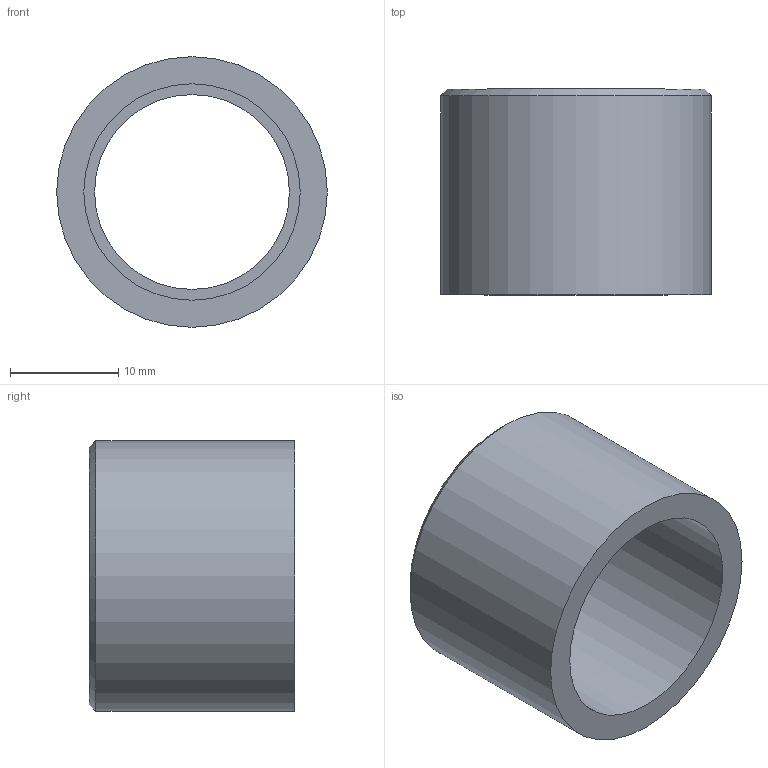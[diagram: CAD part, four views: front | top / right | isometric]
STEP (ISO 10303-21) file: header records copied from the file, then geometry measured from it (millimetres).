
FILE_DESCRIPTION(/* description */ ('PVC riduzione corta incollaggio metrica'),/* implementation_level */ '2;1');
FILE_NAME(/* name */ 'C:\Users\POLYPIPE\Desktop\DATASET INVENTOR\LIBRERIA EFFAST\RACCORDI 3DxWEB\RDR\3D_RDRRCD\3D_RDRRCD025B.stp',/* time_stamp */ '2018-01-19T15:28:47+01:00',/* author */ ('POLYPIPE'),/* organization */ ('Polypipe Italia s.r.l.'),/* preprocessor_version */ 'ST-DEVELOPER v16.1',/* originating_system */ 'Autodesk Inventor 2016',/* authorisation */ '');
FILE_SCHEMA (('CONFIG_CONTROL_DESIGN'));
Length unit declared in the file: millimetre
Products named in the file (1): 3D_RDRRCD
Bounding box: 25 x 19 x 25 mm (x, y, z)
Volume: 3487.1 mm3; surface area: 3086 mm2
Topology: 1 solids, 1 shells, 8 faces, 13 edges, 8 vertices
Faces by surface type: plane 3, cylinder 3, cone 2
Full cylindrical faces by diameter (mm): 18 x1, 20 x1, 25 x1
Entity records: 192 total; most frequent: DIRECTION 34, CARTESIAN_POINT 25, AXIS2_PLACEMENT_3D 17, EDGE_LOOP 16, ORIENTED_EDGE 16, FACE_BOUND 8, FACE_OUTER_BOUND 8, CIRCLE 8
